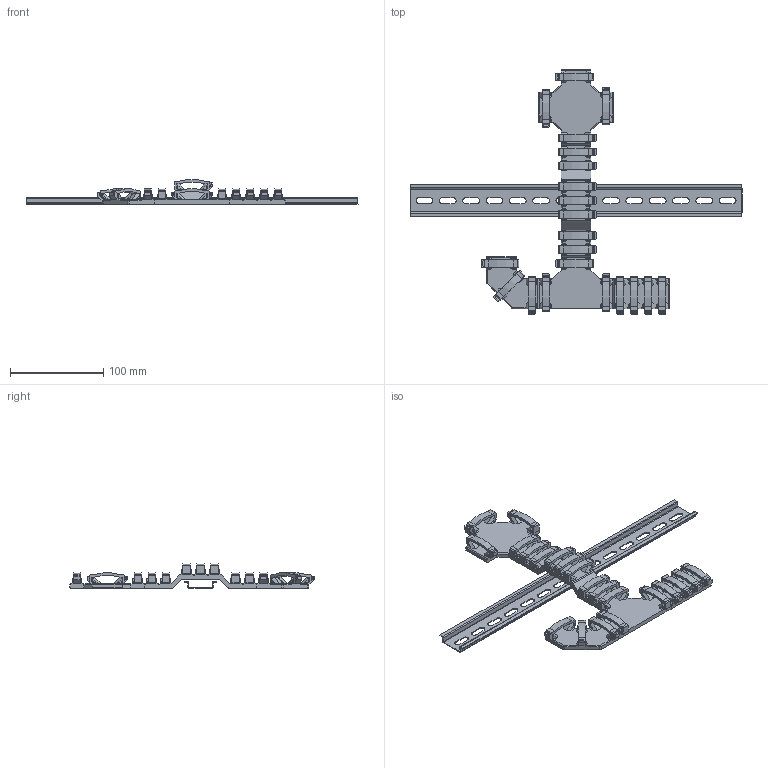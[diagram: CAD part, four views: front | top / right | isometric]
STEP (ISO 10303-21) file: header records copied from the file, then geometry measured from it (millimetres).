
FILE_DESCRIPTION(/* description */ (''),/* implementation_level */ '2;1');
FILE_NAME(/* name */ 'Cable Management Dual Tape (FlatBottom).step',/* time_stamp */ '2024-10-01T16:16:55+02:00',/* author */ (''),/* organization */ (''),/* preprocessor_version */ 'ST-DEVELOPER v20',/* originating_system */ 'Autodesk Translation Framework v13.20.0.188',/* authorisation */ '');
FILE_SCHEMA (('AUTOMOTIVE_DESIGN { 1 0 10303 214 3 1 1 }'));
Products named in the file (18): Cable Management Dual Tape (FlatBottom); Cable_Guide_Bridge Assembly; Electronics Wire Guide Clip Assembly Bridge; Electronics Wire Guide Clip; Bridge_Cable_Guide; Cable_Guide_Stright Assembly; Stright_Cable_Guide; Electronics Wire Guide Clip Assembly Stright; Roundabout_Assembly; Roundabout_Cable_Guide; Electronics Wire Guide Clip Assembly (1); DIN3 Rail v2 (1); Tee_Cable_Guide_Assembly; Electronics Wire Guide Clip Assembly (2); Tee_Cable_Guide; Cable_Guide_Curve Assembly; Curve_Cable_Guide; Electronics Wire Guide Clip Assembly
Assembly tree (17 placements, depth 4):
  Cable Management Dual Tape (FlatBottom)
    Cable_Guide_Bridge Assembly
      Electronics Wire Guide Clip Assembly Bridge
        Electronics Wire Guide Clip
      Bridge_Cable_Guide
    Cable_Guide_Stright Assembly
      Stright_Cable_Guide
      Electronics Wire Guide Clip Assembly Stright
    Roundabout_Assembly
      Roundabout_Cable_Guide
      Electronics Wire Guide Clip Assembly (1)
    DIN3 Rail v2 (1)
    Tee_Cable_Guide_Assembly
      Electronics Wire Guide Clip Assembly (2)
      Tee_Cable_Guide
    Cable_Guide_Curve Assembly
      Curve_Cable_Guide
      Electronics Wire Guide Clip Assembly
Bounding box: 355.92 x 261.6 x 26.56 mm (x, y, z)
Volume: 131489.9 mm3; surface area: 102612.2 mm2
Topology: 27 solids, 27 shells, 2122 faces, 5930 edges, 3904 vertices
Faces by surface type: plane 1860, cylinder 196, sphere 48, bspline 16, cone 2
Entity records: 68399 total; most frequent: CARTESIAN_POINT 13076, ORIENTED_EDGE 11860, DIRECTION 10576, EDGE_CURVE 5930, LINE 5464, VECTOR 5464, VERTEX_POINT 3904, AXIS2_PLACEMENT_3D 2556
